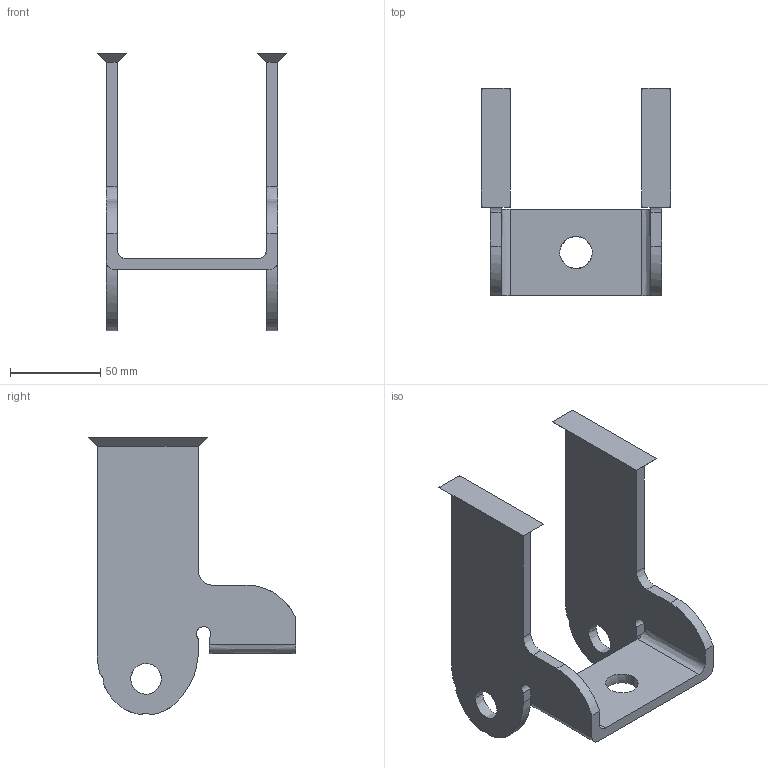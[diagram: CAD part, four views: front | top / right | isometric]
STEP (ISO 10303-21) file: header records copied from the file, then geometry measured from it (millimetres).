
FILE_DESCRIPTION (( 'STEP AP214' ), '1' );
FILE_NAME ('KTU-200WK-GS-20.STEP', '2018-08-30T08:04:13', ( '' ), ( '' ), 'SwSTEP 2.0', 'SolidWorks 2010', '' );
FILE_SCHEMA (( 'AUTOMOTIVE_DESIGN' ));
Length unit declared in the file: millimetre
Products named in the file (1): KTU-200WK-GS-20
Bounding box: 105 x 115 x 153.87 mm (x, y, z)
Volume: 143489.8 mm3; surface area: 56114.6 mm2
Topology: 1 solids, 1 shells, 56 faces, 154 edges, 100 vertices
Faces by surface type: bspline 30, plane 26
Entity records: 3834 total; most frequent: CARTESIAN_POINT 2587, ORIENTED_EDGE 308, EDGE_CURVE 154, DIRECTION 142, VERTEX_POINT 100, LINE 88, VECTOR 88, B_SPLINE_CURVE_WITH_KNOTS 66
